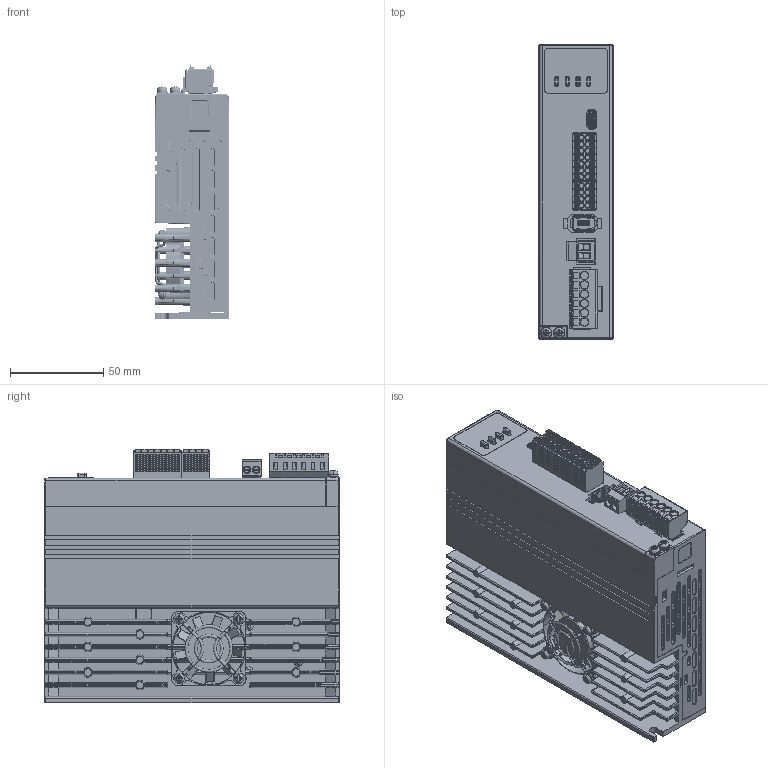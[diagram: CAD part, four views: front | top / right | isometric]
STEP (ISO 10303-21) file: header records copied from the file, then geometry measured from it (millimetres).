
FILE_DESCRIPTION((''),'2;1');
FILE_NAME('MS2-S3_SW0003','2026-03-17T16:41:46',('Admin'),(''),'CREO PARAMETRIC BY PTC INC, 2020074','CREO PARAMETRIC BY PTC INC, 2020074','');
FILE_SCHEMA(('CONFIG_CONTROL_DESIGN'));
Products named in the file (1): MS2-S3_SW0003
Bounding box: 40 x 158 x 136 mm (x, y, z)
Volume: 575655 mm3; surface area: 190687.7 mm2
Topology: 1 solids, 1 shells, 6930 faces, 19459 edges, 12621 vertices
Faces by surface type: plane 4599, cylinder 1573, bspline 308, torus 166, cone 140, sphere 123, extrusion 21
Entity records: 233482 total; most frequent: CARTESIAN_POINT 55379, ORIENTED_EDGE 38860, DIRECTION 34558, EDGE_CURVE 19430, VECTOR 14578, LINE 14557, VERTEX_POINT 12621, AXIS2_PLACEMENT_3D 9990
